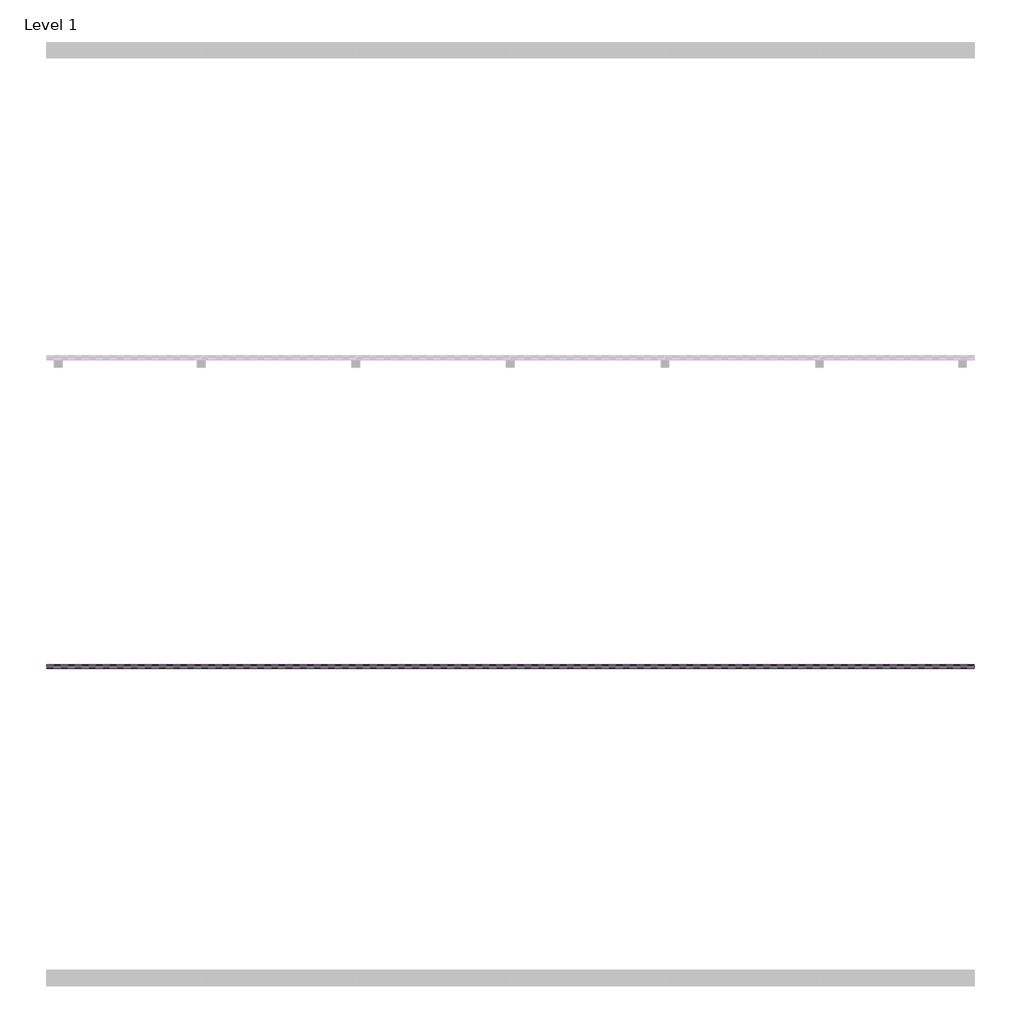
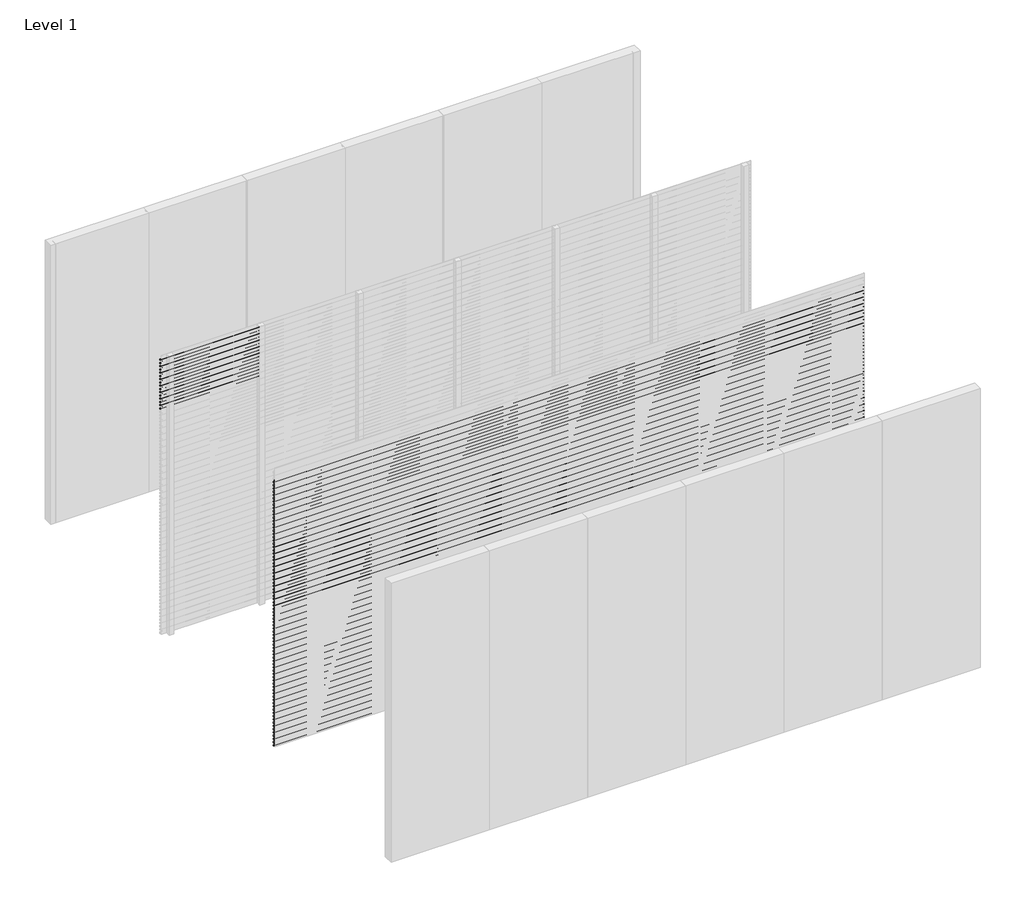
# One storey, part 8 of 25: 98 proxies.
"""IFC4 building model written with IfcOpenShell, lengths in millimetres."""

from ifc_helpers import new_model, si_unit, frame, origin, place, context, project, spatial, polyline, outline, extrude, element, save

model = new_model("IFC4")

# Units and contexts
model_context = context("Model", 3, world=origin())
ifc_project = project(units=[si_unit("LENGTHUNIT", "METRE", prefix="MILLI")], contexts=[model_context])

# Site, building, storey
site = spatial("IfcSite", under=ifc_project)
building = spatial("IfcBuilding", under=site)
storey = spatial("IfcBuildingStorey", under=building, Name="Level 1", Elevation=0.0)

# Proxies
placement = place(None, origin())
element("IfcBuildingElementProxy", 1, Name="Wall Sweeps", at=placement, inside=storey, context=model_context, shape_type="SweptSolid", body=[
    extrude(outline(polyline([(-11995.0, 2975.0), (-11995.0, 2963.942893), (-11976.0, 2948.0), (-11976.0, 2935.0), (-11997.0, 2952.6210923), (-11997.0, 2975.0), (-11995.0, 2975.0)])), frame((0.0, 0.0, 0.0), z_axis=(1.0, 0.0, 0.0), x_axis=(0.0, 1.0, 0.0)), (0.0, 0.0, 1.0), 1000.0),
])
element("IfcBuildingElementProxy", 2, Name="Wall Sweeps", at=placement, inside=storey, context=model_context, shape_type="SweptSolid", body=[
    extrude(outline(polyline([(-11995.0, 2940.0), (-11995.0, 2928.942893), (-11976.0, 2913.0), (-11976.0, 2900.0), (-11997.0, 2917.6210923), (-11997.0, 2940.0), (-11995.0, 2940.0)])), frame((0.0, 0.0, 0.0), z_axis=(1.0, 0.0, 0.0), x_axis=(0.0, 1.0, 0.0)), (0.0, 0.0, 1.0), 1000.0),
])
element("IfcBuildingElementProxy", 3, Name="Wall Sweeps", at=placement, inside=storey, context=model_context, shape_type="SweptSolid", body=[
    extrude(outline(polyline([(-11995.0, 2905.0), (-11995.0, 2893.942893), (-11976.0, 2878.0), (-11976.0, 2865.0), (-11997.0, 2882.6210923), (-11997.0, 2905.0), (-11995.0, 2905.0)])), frame((0.0, 0.0, 0.0), z_axis=(1.0, 0.0, 0.0), x_axis=(0.0, 1.0, 0.0)), (0.0, 0.0, 1.0), 1000.0),
])
element("IfcBuildingElementProxy", 4, Name="Wall Sweeps", at=placement, inside=storey, context=model_context, shape_type="SweptSolid", body=[
    extrude(outline(polyline([(-11995.0, 2870.0), (-11995.0, 2858.942893), (-11976.0, 2843.0), (-11976.0, 2830.0), (-11997.0, 2847.6210923), (-11997.0, 2870.0), (-11995.0, 2870.0)])), frame((0.0, 0.0, 0.0), z_axis=(1.0, 0.0, 0.0), x_axis=(0.0, 1.0, 0.0)), (0.0, 0.0, 1.0), 1000.0),
])
element("IfcBuildingElementProxy", 5, Name="Wall Sweeps", at=placement, inside=storey, context=model_context, shape_type="SweptSolid", body=[
    extrude(outline(polyline([(-11995.0, 2835.0), (-11995.0, 2823.942893), (-11976.0, 2808.0), (-11976.0, 2795.0), (-11997.0, 2812.6210923), (-11997.0, 2835.0), (-11995.0, 2835.0)])), frame((0.0, 0.0, 0.0), z_axis=(1.0, 0.0, 0.0), x_axis=(0.0, 1.0, 0.0)), (0.0, 0.0, 1.0), 1000.0),
])
element("IfcBuildingElementProxy", 6, Name="Wall Sweeps", at=placement, inside=storey, context=model_context, shape_type="SweptSolid", body=[
    extrude(outline(polyline([(-11995.0, 2800.0), (-11995.0, 2788.942893), (-11976.0, 2773.0), (-11976.0, 2760.0), (-11997.0, 2777.6210923), (-11997.0, 2800.0), (-11995.0, 2800.0)])), frame((0.0, 0.0, 0.0), z_axis=(1.0, 0.0, 0.0), x_axis=(0.0, 1.0, 0.0)), (0.0, 0.0, 1.0), 1000.0),
])
element("IfcBuildingElementProxy", 7, Name="Wall Sweeps", at=placement, inside=storey, context=model_context, shape_type="SweptSolid", body=[
    extrude(outline(polyline([(-11995.0, 2765.0), (-11995.0, 2753.942893), (-11976.0, 2738.0), (-11976.0, 2725.0), (-11997.0, 2742.6210923), (-11997.0, 2765.0), (-11995.0, 2765.0)])), frame((0.0, 0.0, 0.0), z_axis=(1.0, 0.0, 0.0), x_axis=(0.0, 1.0, 0.0)), (0.0, 0.0, 1.0), 1000.0),
])
element("IfcBuildingElementProxy", 8, Name="Wall Sweeps", at=placement, inside=storey, context=model_context, shape_type="SweptSolid", body=[
    extrude(outline(polyline([(-11995.0, 2730.0), (-11995.0, 2718.942893), (-11976.0, 2703.0), (-11976.0, 2690.0), (-11997.0, 2707.6210923), (-11997.0, 2730.0), (-11995.0, 2730.0)])), frame((0.0, 0.0, 0.0), z_axis=(1.0, 0.0, 0.0), x_axis=(0.0, 1.0, 0.0)), (0.0, 0.0, 1.0), 1000.0),
])
element("IfcBuildingElementProxy", 9, Name="Wall Sweeps", at=placement, inside=storey, context=model_context, shape_type="SweptSolid", body=[
    extrude(outline(polyline([(-11995.0, 2695.0), (-11995.0, 2683.942893), (-11976.0, 2668.0), (-11976.0, 2655.0), (-11997.0, 2672.6210923), (-11997.0, 2695.0), (-11995.0, 2695.0)])), frame((0.0, 0.0, 0.0), z_axis=(1.0, 0.0, 0.0), x_axis=(0.0, 1.0, 0.0)), (0.0, 0.0, 1.0), 1000.0),
])
element("IfcBuildingElementProxy", 10, Name="Wall Sweeps", at=placement, inside=storey, context=model_context, shape_type="SweptSolid", body=[
    extrude(outline(polyline([(-11995.0, 2660.0), (-11995.0, 2648.942893), (-11976.0, 2633.0), (-11976.0, 2620.0), (-11997.0, 2637.6210923), (-11997.0, 2660.0), (-11995.0, 2660.0)])), frame((0.0, 0.0, 0.0), z_axis=(1.0, 0.0, 0.0), x_axis=(0.0, 1.0, 0.0)), (0.0, 0.0, 1.0), 1000.0),
])
element("IfcBuildingElementProxy", 11, Name="Wall Sweeps", at=placement, inside=storey, context=model_context, shape_type="SweptSolid", body=[
    extrude(outline(polyline([(-11995.0, 2625.0), (-11995.0, 2613.942893), (-11976.0, 2598.0), (-11976.0, 2585.0), (-11997.0, 2602.6210923), (-11997.0, 2625.0), (-11995.0, 2625.0)])), frame((0.0, 0.0, 0.0), z_axis=(1.0, 0.0, 0.0), x_axis=(0.0, 1.0, 0.0)), (0.0, 0.0, 1.0), 1000.0),
])
element("IfcBuildingElementProxy", 12, Name="Wall Sweeps", at=placement, inside=storey, context=model_context, shape_type="SweptSolid", body=[
    extrude(outline(polyline([(-11995.0, 2590.0), (-11995.0, 2578.942893), (-11976.0, 2563.0), (-11976.0, 2550.0), (-11997.0, 2567.6210923), (-11997.0, 2590.0), (-11995.0, 2590.0)])), frame((0.0, 0.0, 0.0), z_axis=(1.0, 0.0, 0.0), x_axis=(0.0, 1.0, 0.0)), (0.0, 0.0, 1.0), 1000.0),
])
element("IfcBuildingElementProxy", 13, Name="Wall Sweeps", at=placement, inside=storey, context=model_context, shape_type="SweptSolid", body=[
    extrude(outline(polyline([(-11995.0, 2555.0), (-11995.0, 2543.942893), (-11976.0, 2528.0), (-11976.0, 2515.0), (-11997.0, 2532.6210923), (-11997.0, 2555.0), (-11995.0, 2555.0)])), frame((0.0, 0.0, 0.0), z_axis=(1.0, 0.0, 0.0), x_axis=(0.0, 1.0, 0.0)), (0.0, 0.0, 1.0), 1000.0),
])
element("IfcBuildingElementProxy", 14, Name="Wall Sweeps", at=placement, inside=storey, context=model_context, shape_type="SweptSolid", body=[
    extrude(outline(polyline([(-11995.0, 2520.0), (-11995.0, 2508.942893), (-11976.0, 2493.0), (-11976.0, 2480.0), (-11997.0, 2497.6210923), (-11997.0, 2520.0), (-11995.0, 2520.0)])), frame((0.0, 0.0, 0.0), z_axis=(1.0, 0.0, 0.0), x_axis=(0.0, 1.0, 0.0)), (0.0, 0.0, 1.0), 1000.0),
])
element("IfcBuildingElementProxy", 15, Name="Wall Sweeps", at=placement, inside=storey, context=model_context, shape_type="SweptSolid", body=[
    extrude(outline(polyline([(-11995.0, 2485.0), (-11995.0, 2473.942893), (-11976.0, 2458.0), (-11976.0, 2445.0), (-11997.0, 2462.6210923), (-11997.0, 2485.0), (-11995.0, 2485.0)])), frame((0.0, 0.0, 0.0), z_axis=(1.0, 0.0, 0.0), x_axis=(0.0, 1.0, 0.0)), (0.0, 0.0, 1.0), 1000.0),
])
element("IfcBuildingElementProxy", 16, Name="Wall Sweeps", at=placement, inside=storey, context=model_context, shape_type="SweptSolid", body=[
    extrude(outline(polyline([(-11995.0, 2450.0), (-11995.0, 2438.942893), (-11976.0, 2423.0), (-11976.0, 2410.0), (-11997.0, 2427.6210923), (-11997.0, 2450.0), (-11995.0, 2450.0)])), frame((0.0, 0.0, 0.0), z_axis=(1.0, 0.0, 0.0), x_axis=(0.0, 1.0, 0.0)), (0.0, 0.0, 1.0), 1000.0),
])
element("IfcBuildingElementProxy", 17, Name="Wall Sweeps", at=placement, inside=storey, context=model_context, shape_type="SweptSolid", body=[
    extrude(outline(polyline([(-13995.0, 2870.0), (-13995.0, 2858.942893), (-13976.0, 2843.0), (-13976.0, 2830.0), (-13997.0, 2847.6210923), (-13997.0, 2870.0), (-13995.0, 2870.0)])), frame((0.0, 0.0, 0.0), z_axis=(1.0, 0.0, 0.0), x_axis=(0.0, 1.0, 0.0)), (0.0, 0.0, 1.0), 6000.0),
])
element("IfcBuildingElementProxy", 18, Name="Wall Sweeps", at=placement, inside=storey, context=model_context, shape_type="SweptSolid", body=[
    extrude(outline(polyline([(-13995.0, 2835.0), (-13995.0, 2823.942893), (-13976.0, 2808.0), (-13976.0, 2795.0), (-13997.0, 2812.6210923), (-13997.0, 2835.0), (-13995.0, 2835.0)])), frame((0.0, 0.0, 0.0), z_axis=(1.0, 0.0, 0.0), x_axis=(0.0, 1.0, 0.0)), (0.0, 0.0, 1.0), 6000.0),
])
element("IfcBuildingElementProxy", 19, Name="Wall Sweeps", at=placement, inside=storey, context=model_context, shape_type="SweptSolid", body=[
    extrude(outline(polyline([(-13995.0, 2800.0), (-13995.0, 2788.942893), (-13976.0, 2773.0), (-13976.0, 2760.0), (-13997.0, 2777.6210923), (-13997.0, 2800.0), (-13995.0, 2800.0)])), frame((0.0, 0.0, 0.0), z_axis=(1.0, 0.0, 0.0), x_axis=(0.0, 1.0, 0.0)), (0.0, 0.0, 1.0), 6000.0),
])
element("IfcBuildingElementProxy", 20, Name="Wall Sweeps", at=placement, inside=storey, context=model_context, shape_type="SweptSolid", body=[
    extrude(outline(polyline([(-13995.0, 2765.0), (-13995.0, 2753.942893), (-13976.0, 2738.0), (-13976.0, 2725.0), (-13997.0, 2742.6210923), (-13997.0, 2765.0), (-13995.0, 2765.0)])), frame((0.0, 0.0, 0.0), z_axis=(1.0, 0.0, 0.0), x_axis=(0.0, 1.0, 0.0)), (0.0, 0.0, 1.0), 6000.0),
])
element("IfcBuildingElementProxy", 21, Name="Wall Sweeps", at=placement, inside=storey, context=model_context, shape_type="SweptSolid", body=[
    extrude(outline(polyline([(-13995.0, 2730.0), (-13995.0, 2718.942893), (-13976.0, 2703.0), (-13976.0, 2690.0), (-13997.0, 2707.6210923), (-13997.0, 2730.0), (-13995.0, 2730.0)])), frame((0.0, 0.0, 0.0), z_axis=(1.0, 0.0, 0.0), x_axis=(0.0, 1.0, 0.0)), (0.0, 0.0, 1.0), 6000.0),
])
element("IfcBuildingElementProxy", 22, Name="Wall Sweeps", at=placement, inside=storey, context=model_context, shape_type="SweptSolid", body=[
    extrude(outline(polyline([(-13995.0, 2695.0), (-13995.0, 2683.942893), (-13976.0, 2668.0), (-13976.0, 2655.0), (-13997.0, 2672.6210923), (-13997.0, 2695.0), (-13995.0, 2695.0)])), frame((0.0, 0.0, 0.0), z_axis=(1.0, 0.0, 0.0), x_axis=(0.0, 1.0, 0.0)), (0.0, 0.0, 1.0), 6000.0),
])
element("IfcBuildingElementProxy", 23, Name="Wall Sweeps", at=placement, inside=storey, context=model_context, shape_type="SweptSolid", body=[
    extrude(outline(polyline([(-13995.0, 2660.0), (-13995.0, 2648.942893), (-13976.0, 2633.0), (-13976.0, 2620.0), (-13997.0, 2637.6210923), (-13997.0, 2660.0), (-13995.0, 2660.0)])), frame((0.0, 0.0, 0.0), z_axis=(1.0, 0.0, 0.0), x_axis=(0.0, 1.0, 0.0)), (0.0, 0.0, 1.0), 6000.0),
])
element("IfcBuildingElementProxy", 24, Name="Wall Sweeps", at=placement, inside=storey, context=model_context, shape_type="SweptSolid", body=[
    extrude(outline(polyline([(-13995.0, 2625.0), (-13995.0, 2613.942893), (-13976.0, 2598.0), (-13976.0, 2585.0), (-13997.0, 2602.6210923), (-13997.0, 2625.0), (-13995.0, 2625.0)])), frame((0.0, 0.0, 0.0), z_axis=(1.0, 0.0, 0.0), x_axis=(0.0, 1.0, 0.0)), (0.0, 0.0, 1.0), 6000.0),
])
element("IfcBuildingElementProxy", 25, Name="Wall Sweeps", at=placement, inside=storey, context=model_context, shape_type="SweptSolid", body=[
    extrude(outline(polyline([(-13995.0, 2590.0), (-13995.0, 2578.942893), (-13976.0, 2563.0), (-13976.0, 2550.0), (-13997.0, 2567.6210923), (-13997.0, 2590.0), (-13995.0, 2590.0)])), frame((0.0, 0.0, 0.0), z_axis=(1.0, 0.0, 0.0), x_axis=(0.0, 1.0, 0.0)), (0.0, 0.0, 1.0), 6000.0),
])
element("IfcBuildingElementProxy", 26, Name="Wall Sweeps", at=placement, inside=storey, context=model_context, shape_type="SweptSolid", body=[
    extrude(outline(polyline([(-13995.0, 2555.0), (-13995.0, 2543.942893), (-13976.0, 2528.0), (-13976.0, 2515.0), (-13997.0, 2532.6210923), (-13997.0, 2555.0), (-13995.0, 2555.0)])), frame((0.0, 0.0, 0.0), z_axis=(1.0, 0.0, 0.0), x_axis=(0.0, 1.0, 0.0)), (0.0, 0.0, 1.0), 6000.0),
])
element("IfcBuildingElementProxy", 27, Name="Wall Sweeps", at=placement, inside=storey, context=model_context, shape_type="SweptSolid", body=[
    extrude(outline(polyline([(-13995.0, 2520.0), (-13995.0, 2508.942893), (-13976.0, 2493.0), (-13976.0, 2480.0), (-13997.0, 2497.6210923), (-13997.0, 2520.0), (-13995.0, 2520.0)])), frame((0.0, 0.0, 0.0), z_axis=(1.0, 0.0, 0.0), x_axis=(0.0, 1.0, 0.0)), (0.0, 0.0, 1.0), 6000.0),
])
element("IfcBuildingElementProxy", 28, Name="Wall Sweeps", at=placement, inside=storey, context=model_context, shape_type="SweptSolid", body=[
    extrude(outline(polyline([(-13995.0, 2485.0), (-13995.0, 2473.942893), (-13976.0, 2458.0), (-13976.0, 2445.0), (-13997.0, 2462.6210923), (-13997.0, 2485.0), (-13995.0, 2485.0)])), frame((0.0, 0.0, 0.0), z_axis=(1.0, 0.0, 0.0), x_axis=(0.0, 1.0, 0.0)), (0.0, 0.0, 1.0), 6000.0),
])
element("IfcBuildingElementProxy", 29, Name="Wall Sweeps", at=placement, inside=storey, context=model_context, shape_type="SweptSolid", body=[
    extrude(outline(polyline([(-13995.0, 2450.0), (-13995.0, 2438.942893), (-13976.0, 2423.0), (-13976.0, 2410.0), (-13997.0, 2427.6210923), (-13997.0, 2450.0), (-13995.0, 2450.0)])), frame((0.0, 0.0, 0.0), z_axis=(1.0, 0.0, 0.0), x_axis=(0.0, 1.0, 0.0)), (0.0, 0.0, 1.0), 6000.0),
])
element("IfcBuildingElementProxy", 30, Name="Wall Sweeps", at=placement, inside=storey, context=model_context, shape_type="SweptSolid", body=[
    extrude(outline(polyline([(-13995.0, 2415.0), (-13995.0, 2403.942893), (-13976.0, 2388.0), (-13976.0, 2375.0), (-13997.0, 2392.6210923), (-13997.0, 2415.0), (-13995.0, 2415.0)])), frame((0.0, 0.0, 0.0), z_axis=(1.0, 0.0, 0.0), x_axis=(0.0, 1.0, 0.0)), (0.0, 0.0, 1.0), 6000.0),
])
element("IfcBuildingElementProxy", 31, Name="Wall Sweeps", at=placement, inside=storey, context=model_context, shape_type="SweptSolid", body=[
    extrude(outline(polyline([(-13995.0, 2380.0), (-13995.0, 2368.942893), (-13976.0, 2353.0), (-13976.0, 2340.0), (-13997.0, 2357.6210923), (-13997.0, 2380.0), (-13995.0, 2380.0)])), frame((0.0, 0.0, 0.0), z_axis=(1.0, 0.0, 0.0), x_axis=(0.0, 1.0, 0.0)), (0.0, 0.0, 1.0), 6000.0),
])
element("IfcBuildingElementProxy", 32, Name="Wall Sweeps", at=placement, inside=storey, context=model_context, shape_type="SweptSolid", body=[
    extrude(outline(polyline([(-13995.0, 2345.0), (-13995.0, 2333.942893), (-13976.0, 2318.0), (-13976.0, 2305.0), (-13997.0, 2322.6210923), (-13997.0, 2345.0), (-13995.0, 2345.0)])), frame((0.0, 0.0, 0.0), z_axis=(1.0, 0.0, 0.0), x_axis=(0.0, 1.0, 0.0)), (0.0, 0.0, 1.0), 6000.0),
])
element("IfcBuildingElementProxy", 33, Name="Wall Sweeps", at=placement, inside=storey, context=model_context, shape_type="SweptSolid", body=[
    extrude(outline(polyline([(-13995.0, 2310.0), (-13995.0, 2298.942893), (-13976.0, 2283.0), (-13976.0, 2270.0), (-13997.0, 2287.6210923), (-13997.0, 2310.0), (-13995.0, 2310.0)])), frame((0.0, 0.0, 0.0), z_axis=(1.0, 0.0, 0.0), x_axis=(0.0, 1.0, 0.0)), (0.0, 0.0, 1.0), 6000.0),
])
element("IfcBuildingElementProxy", 34, Name="Wall Sweeps", at=placement, inside=storey, context=model_context, shape_type="SweptSolid", body=[
    extrude(outline(polyline([(-13995.0, 2275.0), (-13995.0, 2263.942893), (-13976.0, 2248.0), (-13976.0, 2235.0), (-13997.0, 2252.6210923), (-13997.0, 2275.0), (-13995.0, 2275.0)])), frame((0.0, 0.0, 0.0), z_axis=(1.0, 0.0, 0.0), x_axis=(0.0, 1.0, 0.0)), (0.0, 0.0, 1.0), 6000.0),
])
element("IfcBuildingElementProxy", 35, Name="Wall Sweeps", at=placement, inside=storey, context=model_context, shape_type="SweptSolid", body=[
    extrude(outline(polyline([(-13995.0, 2240.0), (-13995.0, 2228.942893), (-13976.0, 2213.0), (-13976.0, 2200.0), (-13997.0, 2217.6210923), (-13997.0, 2240.0), (-13995.0, 2240.0)])), frame((0.0, 0.0, 0.0), z_axis=(1.0, 0.0, 0.0), x_axis=(0.0, 1.0, 0.0)), (0.0, 0.0, 1.0), 6000.0),
])
element("IfcBuildingElementProxy", 36, Name="Wall Sweeps", at=placement, inside=storey, context=model_context, shape_type="SweptSolid", body=[
    extrude(outline(polyline([(-13995.0, 2205.0), (-13995.0, 2193.942893), (-13976.0, 2178.0), (-13976.0, 2165.0), (-13997.0, 2182.6210923), (-13997.0, 2205.0), (-13995.0, 2205.0)])), frame((0.0, 0.0, 0.0), z_axis=(1.0, 0.0, 0.0), x_axis=(0.0, 1.0, 0.0)), (0.0, 0.0, 1.0), 6000.0),
])
element("IfcBuildingElementProxy", 37, Name="Wall Sweeps", at=placement, inside=storey, context=model_context, shape_type="SweptSolid", body=[
    extrude(outline(polyline([(-13995.0, 2170.0), (-13995.0, 2158.942893), (-13976.0, 2143.0), (-13976.0, 2130.0), (-13997.0, 2147.6210923), (-13997.0, 2170.0), (-13995.0, 2170.0)])), frame((0.0, 0.0, 0.0), z_axis=(1.0, 0.0, 0.0), x_axis=(0.0, 1.0, 0.0)), (0.0, 0.0, 1.0), 6000.0),
])
element("IfcBuildingElementProxy", 38, Name="Wall Sweeps", at=placement, inside=storey, context=model_context, shape_type="SweptSolid", body=[
    extrude(outline(polyline([(-13995.0, 2135.0), (-13995.0, 2123.942893), (-13976.0, 2108.0), (-13976.0, 2095.0), (-13997.0, 2112.6210923), (-13997.0, 2135.0), (-13995.0, 2135.0)])), frame((0.0, 0.0, 0.0), z_axis=(1.0, 0.0, 0.0), x_axis=(0.0, 1.0, 0.0)), (0.0, 0.0, 1.0), 6000.0),
])
element("IfcBuildingElementProxy", 39, Name="Wall Sweeps", at=placement, inside=storey, context=model_context, shape_type="SweptSolid", body=[
    extrude(outline(polyline([(-13995.0, 2100.0), (-13995.0, 2088.942893), (-13976.0, 2073.0), (-13976.0, 2060.0), (-13997.0, 2077.6210923), (-13997.0, 2100.0), (-13995.0, 2100.0)])), frame((0.0, 0.0, 0.0), z_axis=(1.0, 0.0, 0.0), x_axis=(0.0, 1.0, 0.0)), (0.0, 0.0, 1.0), 6000.0),
])
element("IfcBuildingElementProxy", 40, Name="Wall Sweeps", at=placement, inside=storey, context=model_context, shape_type="SweptSolid", body=[
    extrude(outline(polyline([(-13995.0, 2065.0), (-13995.0, 2053.942893), (-13976.0, 2038.0), (-13976.0, 2025.0), (-13997.0, 2042.6210923), (-13997.0, 2065.0), (-13995.0, 2065.0)])), frame((0.0, 0.0, 0.0), z_axis=(1.0, 0.0, 0.0), x_axis=(0.0, 1.0, 0.0)), (0.0, 0.0, 1.0), 6000.0),
])
element("IfcBuildingElementProxy", 41, Name="Wall Sweeps", at=placement, inside=storey, context=model_context, shape_type="SweptSolid", body=[
    extrude(outline(polyline([(-13995.0, 2030.0), (-13995.0, 2018.942893), (-13976.0, 2003.0), (-13976.0, 1990.0), (-13997.0, 2007.6210923), (-13997.0, 2030.0), (-13995.0, 2030.0)])), frame((0.0, 0.0, 0.0), z_axis=(1.0, 0.0, 0.0), x_axis=(0.0, 1.0, 0.0)), (0.0, 0.0, 1.0), 6000.0),
])
element("IfcBuildingElementProxy", 42, Name="Wall Sweeps", at=placement, inside=storey, context=model_context, shape_type="SweptSolid", body=[
    extrude(outline(polyline([(-13995.0, 1995.0), (-13995.0, 1983.942893), (-13976.0, 1968.0), (-13976.0, 1955.0), (-13997.0, 1972.6210923), (-13997.0, 1995.0), (-13995.0, 1995.0)])), frame((0.0, 0.0, 0.0), z_axis=(1.0, 0.0, 0.0), x_axis=(0.0, 1.0, 0.0)), (0.0, 0.0, 1.0), 6000.0),
])
element("IfcBuildingElementProxy", 43, Name="Wall Sweeps", at=placement, inside=storey, context=model_context, shape_type="SweptSolid", body=[
    extrude(outline(polyline([(-13995.0, 1960.0), (-13995.0, 1948.942893), (-13976.0, 1933.0), (-13976.0, 1920.0), (-13997.0, 1937.6210923), (-13997.0, 1960.0), (-13995.0, 1960.0)])), frame((0.0, 0.0, 0.0), z_axis=(1.0, 0.0, 0.0), x_axis=(0.0, 1.0, 0.0)), (0.0, 0.0, 1.0), 6000.0),
])
element("IfcBuildingElementProxy", 44, Name="Wall Sweeps", at=placement, inside=storey, context=model_context, shape_type="SweptSolid", body=[
    extrude(outline(polyline([(-13995.0, 1925.0), (-13995.0, 1913.942893), (-13976.0, 1898.0), (-13976.0, 1885.0), (-13997.0, 1902.6210923), (-13997.0, 1925.0), (-13995.0, 1925.0)])), frame((0.0, 0.0, 0.0), z_axis=(1.0, 0.0, 0.0), x_axis=(0.0, 1.0, 0.0)), (0.0, 0.0, 1.0), 6000.0),
])
element("IfcBuildingElementProxy", 45, Name="Wall Sweeps", at=placement, inside=storey, context=model_context, shape_type="SweptSolid", body=[
    extrude(outline(polyline([(-13995.0, 1890.0), (-13995.0, 1878.942893), (-13976.0, 1863.0), (-13976.0, 1850.0), (-13997.0, 1867.6210923), (-13997.0, 1890.0), (-13995.0, 1890.0)])), frame((0.0, 0.0, 0.0), z_axis=(1.0, 0.0, 0.0), x_axis=(0.0, 1.0, 0.0)), (0.0, 0.0, 1.0), 6000.0),
])
element("IfcBuildingElementProxy", 46, Name="Wall Sweeps", at=placement, inside=storey, context=model_context, shape_type="SweptSolid", body=[
    extrude(outline(polyline([(-13995.0, 1855.0), (-13995.0, 1843.942893), (-13976.0, 1828.0), (-13976.0, 1815.0), (-13997.0, 1832.6210923), (-13997.0, 1855.0), (-13995.0, 1855.0)])), frame((0.0, 0.0, 0.0), z_axis=(1.0, 0.0, 0.0), x_axis=(0.0, 1.0, 0.0)), (0.0, 0.0, 1.0), 6000.0),
])
element("IfcBuildingElementProxy", 47, Name="Wall Sweeps", at=placement, inside=storey, context=model_context, shape_type="SweptSolid", body=[
    extrude(outline(polyline([(-13995.0, 1820.0), (-13995.0, 1808.942893), (-13976.0, 1793.0), (-13976.0, 1780.0), (-13997.0, 1797.6210923), (-13997.0, 1820.0), (-13995.0, 1820.0)])), frame((0.0, 0.0, 0.0), z_axis=(1.0, 0.0, 0.0), x_axis=(0.0, 1.0, 0.0)), (0.0, 0.0, 1.0), 6000.0),
])
element("IfcBuildingElementProxy", 48, Name="Wall Sweeps", at=placement, inside=storey, context=model_context, shape_type="SweptSolid", body=[
    extrude(outline(polyline([(-13995.0, 1785.0), (-13995.0, 1773.942893), (-13976.0, 1758.0), (-13976.0, 1745.0), (-13997.0, 1762.6210923), (-13997.0, 1785.0), (-13995.0, 1785.0)])), frame((0.0, 0.0, 0.0), z_axis=(1.0, 0.0, 0.0), x_axis=(0.0, 1.0, 0.0)), (0.0, 0.0, 1.0), 6000.0),
])
element("IfcBuildingElementProxy", 49, Name="Wall Sweeps", at=placement, inside=storey, context=model_context, shape_type="SweptSolid", body=[
    extrude(outline(polyline([(-13995.0, 1750.0), (-13995.0, 1738.942893), (-13976.0, 1723.0), (-13976.0, 1710.0), (-13997.0, 1727.6210923), (-13997.0, 1750.0), (-13995.0, 1750.0)])), frame((0.0, 0.0, 0.0), z_axis=(1.0, 0.0, 0.0), x_axis=(0.0, 1.0, 0.0)), (0.0, 0.0, 1.0), 6000.0),
])
element("IfcBuildingElementProxy", 50, Name="Wall Sweeps", at=placement, inside=storey, context=model_context, shape_type="SweptSolid", body=[
    extrude(outline(polyline([(-13995.0, 1715.0), (-13995.0, 1703.942893), (-13976.0, 1688.0), (-13976.0, 1675.0), (-13997.0, 1692.6210923), (-13997.0, 1715.0), (-13995.0, 1715.0)])), frame((0.0, 0.0, 0.0), z_axis=(1.0, 0.0, 0.0), x_axis=(0.0, 1.0, 0.0)), (0.0, 0.0, 1.0), 6000.0),
])
element("IfcBuildingElementProxy", 51, Name="Wall Sweeps", at=placement, inside=storey, context=model_context, shape_type="SweptSolid", body=[
    extrude(outline(polyline([(-13995.0, 1680.0), (-13995.0, 1668.942893), (-13976.0, 1653.0), (-13976.0, 1640.0), (-13997.0, 1657.6210923), (-13997.0, 1680.0), (-13995.0, 1680.0)])), frame((0.0, 0.0, 0.0), z_axis=(1.0, 0.0, 0.0), x_axis=(0.0, 1.0, 0.0)), (0.0, 0.0, 1.0), 6000.0),
])
element("IfcBuildingElementProxy", 52, Name="Wall Sweeps", at=placement, inside=storey, context=model_context, shape_type="SweptSolid", body=[
    extrude(outline(polyline([(-13995.0, 1645.0), (-13995.0, 1633.942893), (-13976.0, 1618.0), (-13976.0, 1605.0), (-13997.0, 1622.6210923), (-13997.0, 1645.0), (-13995.0, 1645.0)])), frame((0.0, 0.0, 0.0), z_axis=(1.0, 0.0, 0.0), x_axis=(0.0, 1.0, 0.0)), (0.0, 0.0, 1.0), 6000.0),
])
element("IfcBuildingElementProxy", 53, Name="Wall Sweeps", at=placement, inside=storey, context=model_context, shape_type="SweptSolid", body=[
    extrude(outline(polyline([(-13995.0, 1610.0), (-13995.0, 1598.942893), (-13976.0, 1583.0), (-13976.0, 1570.0), (-13997.0, 1587.6210923), (-13997.0, 1610.0), (-13995.0, 1610.0)])), frame((0.0, 0.0, 0.0), z_axis=(1.0, 0.0, 0.0), x_axis=(0.0, 1.0, 0.0)), (0.0, 0.0, 1.0), 6000.0),
])
element("IfcBuildingElementProxy", 54, Name="Wall Sweeps", at=placement, inside=storey, context=model_context, shape_type="SweptSolid", body=[
    extrude(outline(polyline([(-13995.0, 1575.0), (-13995.0, 1563.942893), (-13976.0, 1548.0), (-13976.0, 1535.0), (-13997.0, 1552.6210923), (-13997.0, 1575.0), (-13995.0, 1575.0)])), frame((0.0, 0.0, 0.0), z_axis=(1.0, 0.0, 0.0), x_axis=(0.0, 1.0, 0.0)), (0.0, 0.0, 1.0), 6000.0),
])
element("IfcBuildingElementProxy", 55, Name="Wall Sweeps", at=placement, inside=storey, context=model_context, shape_type="SweptSolid", body=[
    extrude(outline(polyline([(-13995.0, 1540.0), (-13995.0, 1528.942893), (-13976.0, 1513.0), (-13976.0, 1500.0), (-13997.0, 1517.6210923), (-13997.0, 1540.0), (-13995.0, 1540.0)])), frame((0.0, 0.0, 0.0), z_axis=(1.0, 0.0, 0.0), x_axis=(0.0, 1.0, 0.0)), (0.0, 0.0, 1.0), 6000.0),
])
element("IfcBuildingElementProxy", 56, Name="Wall Sweeps", at=placement, inside=storey, context=model_context, shape_type="SweptSolid", body=[
    extrude(outline(polyline([(-13995.0, 1505.0), (-13995.0, 1493.942893), (-13976.0, 1478.0), (-13976.0, 1465.0), (-13997.0, 1482.6210923), (-13997.0, 1505.0), (-13995.0, 1505.0)])), frame((0.0, 0.0, 0.0), z_axis=(1.0, 0.0, 0.0), x_axis=(0.0, 1.0, 0.0)), (0.0, 0.0, 1.0), 6000.0),
])
element("IfcBuildingElementProxy", 57, Name="Wall Sweeps", at=placement, inside=storey, context=model_context, shape_type="SweptSolid", body=[
    extrude(outline(polyline([(-13995.0, 1470.0), (-13995.0, 1458.942893), (-13976.0, 1443.0), (-13976.0, 1430.0), (-13997.0, 1447.6210923), (-13997.0, 1470.0), (-13995.0, 1470.0)])), frame((0.0, 0.0, 0.0), z_axis=(1.0, 0.0, 0.0), x_axis=(0.0, 1.0, 0.0)), (0.0, 0.0, 1.0), 6000.0),
])
element("IfcBuildingElementProxy", 58, Name="Wall Sweeps", at=placement, inside=storey, context=model_context, shape_type="SweptSolid", body=[
    extrude(outline(polyline([(-13995.0, 1435.0), (-13995.0, 1423.942893), (-13976.0, 1408.0), (-13976.0, 1395.0), (-13997.0, 1412.6210923), (-13997.0, 1435.0), (-13995.0, 1435.0)])), frame((0.0, 0.0, 0.0), z_axis=(1.0, 0.0, 0.0), x_axis=(0.0, 1.0, 0.0)), (0.0, 0.0, 1.0), 6000.0),
])
element("IfcBuildingElementProxy", 59, Name="Wall Sweeps", at=placement, inside=storey, context=model_context, shape_type="SweptSolid", body=[
    extrude(outline(polyline([(-13995.0, 1400.0), (-13995.0, 1388.942893), (-13976.0, 1373.0), (-13976.0, 1360.0), (-13997.0, 1377.6210923), (-13997.0, 1400.0), (-13995.0, 1400.0)])), frame((0.0, 0.0, 0.0), z_axis=(1.0, 0.0, 0.0), x_axis=(0.0, 1.0, 0.0)), (0.0, 0.0, 1.0), 6000.0),
])
element("IfcBuildingElementProxy", 60, Name="Wall Sweeps", at=placement, inside=storey, context=model_context, shape_type="SweptSolid", body=[
    extrude(outline(polyline([(-13995.0, 1365.0), (-13995.0, 1353.942893), (-13976.0, 1338.0), (-13976.0, 1325.0), (-13997.0, 1342.6210923), (-13997.0, 1365.0), (-13995.0, 1365.0)])), frame((0.0, 0.0, 0.0), z_axis=(1.0, 0.0, 0.0), x_axis=(0.0, 1.0, 0.0)), (0.0, 0.0, 1.0), 6000.0),
])
element("IfcBuildingElementProxy", 61, Name="Wall Sweeps", at=placement, inside=storey, context=model_context, shape_type="SweptSolid", body=[
    extrude(outline(polyline([(-13995.0, 1330.0), (-13995.0, 1318.942893), (-13976.0, 1303.0), (-13976.0, 1290.0), (-13997.0, 1307.6210923), (-13997.0, 1330.0), (-13995.0, 1330.0)])), frame((0.0, 0.0, 0.0), z_axis=(1.0, 0.0, 0.0), x_axis=(0.0, 1.0, 0.0)), (0.0, 0.0, 1.0), 6000.0),
])
element("IfcBuildingElementProxy", 62, Name="Wall Sweeps", at=placement, inside=storey, context=model_context, shape_type="SweptSolid", body=[
    extrude(outline(polyline([(-13995.0, 1295.0), (-13995.0, 1283.942893), (-13976.0, 1268.0), (-13976.0, 1255.0), (-13997.0, 1272.6210923), (-13997.0, 1295.0), (-13995.0, 1295.0)])), frame((0.0, 0.0, 0.0), z_axis=(1.0, 0.0, 0.0), x_axis=(0.0, 1.0, 0.0)), (0.0, 0.0, 1.0), 6000.0),
])
element("IfcBuildingElementProxy", 63, Name="Wall Sweeps", at=placement, inside=storey, context=model_context, shape_type="SweptSolid", body=[
    extrude(outline(polyline([(-13995.0, 1260.0), (-13995.0, 1248.942893), (-13976.0, 1233.0), (-13976.0, 1220.0), (-13997.0, 1237.6210923), (-13997.0, 1260.0), (-13995.0, 1260.0)])), frame((0.0, 0.0, 0.0), z_axis=(1.0, 0.0, 0.0), x_axis=(0.0, 1.0, 0.0)), (0.0, 0.0, 1.0), 6000.0),
])
element("IfcBuildingElementProxy", 64, Name="Wall Sweeps", at=placement, inside=storey, context=model_context, shape_type="SweptSolid", body=[
    extrude(outline(polyline([(-13995.0, 1225.0), (-13995.0, 1213.942893), (-13976.0, 1198.0), (-13976.0, 1185.0), (-13997.0, 1202.6210923), (-13997.0, 1225.0), (-13995.0, 1225.0)])), frame((0.0, 0.0, 0.0), z_axis=(1.0, 0.0, 0.0), x_axis=(0.0, 1.0, 0.0)), (0.0, 0.0, 1.0), 6000.0),
])
element("IfcBuildingElementProxy", 65, Name="Wall Sweeps", at=placement, inside=storey, context=model_context, shape_type="SweptSolid", body=[
    extrude(outline(polyline([(-13995.0, 1190.0), (-13995.0, 1178.942893), (-13976.0, 1163.0), (-13976.0, 1150.0), (-13997.0, 1167.6210923), (-13997.0, 1190.0), (-13995.0, 1190.0)])), frame((0.0, 0.0, 0.0), z_axis=(1.0, 0.0, 0.0), x_axis=(0.0, 1.0, 0.0)), (0.0, 0.0, 1.0), 6000.0),
])
element("IfcBuildingElementProxy", 66, Name="Wall Sweeps", at=placement, inside=storey, context=model_context, shape_type="SweptSolid", body=[
    extrude(outline(polyline([(-13995.0, 1155.0), (-13995.0, 1143.942893), (-13976.0, 1128.0), (-13976.0, 1115.0), (-13997.0, 1132.6210923), (-13997.0, 1155.0), (-13995.0, 1155.0)])), frame((0.0, 0.0, 0.0), z_axis=(1.0, 0.0, 0.0), x_axis=(0.0, 1.0, 0.0)), (0.0, 0.0, 1.0), 6000.0),
])
element("IfcBuildingElementProxy", 67, Name="Wall Sweeps", at=placement, inside=storey, context=model_context, shape_type="SweptSolid", body=[
    extrude(outline(polyline([(-13995.0, 1120.0), (-13995.0, 1108.942893), (-13976.0, 1093.0), (-13976.0, 1080.0), (-13997.0, 1097.6210923), (-13997.0, 1120.0), (-13995.0, 1120.0)])), frame((0.0, 0.0, 0.0), z_axis=(1.0, 0.0, 0.0), x_axis=(0.0, 1.0, 0.0)), (0.0, 0.0, 1.0), 6000.0),
])
element("IfcBuildingElementProxy", 68, Name="Wall Sweeps", at=placement, inside=storey, context=model_context, shape_type="SweptSolid", body=[
    extrude(outline(polyline([(-13995.0, 1085.0), (-13995.0, 1073.942893), (-13976.0, 1058.0), (-13976.0, 1045.0), (-13997.0, 1062.6210923), (-13997.0, 1085.0), (-13995.0, 1085.0)])), frame((0.0, 0.0, 0.0), z_axis=(1.0, 0.0, 0.0), x_axis=(0.0, 1.0, 0.0)), (0.0, 0.0, 1.0), 6000.0),
])
element("IfcBuildingElementProxy", 69, Name="Wall Sweeps", at=placement, inside=storey, context=model_context, shape_type="SweptSolid", body=[
    extrude(outline(polyline([(-13995.0, 1050.0), (-13995.0, 1038.942893), (-13976.0, 1023.0), (-13976.0, 1010.0), (-13997.0, 1027.6210923), (-13997.0, 1050.0), (-13995.0, 1050.0)])), frame((0.0, 0.0, 0.0), z_axis=(1.0, 0.0, 0.0), x_axis=(0.0, 1.0, 0.0)), (0.0, 0.0, 1.0), 6000.0),
])
element("IfcBuildingElementProxy", 70, Name="Wall Sweeps", at=placement, inside=storey, context=model_context, shape_type="SweptSolid", body=[
    extrude(outline(polyline([(-13995.0, 1015.0), (-13995.0, 1003.942893), (-13976.0, 988.0), (-13976.0, 975.0), (-13997.0, 992.6210923), (-13997.0, 1015.0), (-13995.0, 1015.0)])), frame((0.0, 0.0, 0.0), z_axis=(1.0, 0.0, 0.0), x_axis=(0.0, 1.0, 0.0)), (0.0, 0.0, 1.0), 6000.0),
])
element("IfcBuildingElementProxy", 71, Name="Wall Sweeps", at=placement, inside=storey, context=model_context, shape_type="SweptSolid", body=[
    extrude(outline(polyline([(-13995.0, 980.0), (-13995.0, 968.942893), (-13976.0, 953.0), (-13976.0, 940.0), (-13997.0, 957.6210923), (-13997.0, 980.0), (-13995.0, 980.0)])), frame((0.0, 0.0, 0.0), z_axis=(1.0, 0.0, 0.0), x_axis=(0.0, 1.0, 0.0)), (0.0, 0.0, 1.0), 6000.0),
])
element("IfcBuildingElementProxy", 72, Name="Wall Sweeps", at=placement, inside=storey, context=model_context, shape_type="SweptSolid", body=[
    extrude(outline(polyline([(-13995.0, 945.0), (-13995.0, 933.942893), (-13976.0, 918.0), (-13976.0, 905.0), (-13997.0, 922.6210923), (-13997.0, 945.0), (-13995.0, 945.0)])), frame((0.0, 0.0, 0.0), z_axis=(1.0, 0.0, 0.0), x_axis=(0.0, 1.0, 0.0)), (0.0, 0.0, 1.0), 6000.0),
])
element("IfcBuildingElementProxy", 73, Name="Wall Sweeps", at=placement, inside=storey, context=model_context, shape_type="SweptSolid", body=[
    extrude(outline(polyline([(-13995.0, 910.0), (-13995.0, 898.942893), (-13976.0, 883.0), (-13976.0, 870.0), (-13997.0, 887.6210923), (-13997.0, 910.0), (-13995.0, 910.0)])), frame((0.0, 0.0, 0.0), z_axis=(1.0, 0.0, 0.0), x_axis=(0.0, 1.0, 0.0)), (0.0, 0.0, 1.0), 6000.0),
])
element("IfcBuildingElementProxy", 74, Name="Wall Sweeps", at=placement, inside=storey, context=model_context, shape_type="SweptSolid", body=[
    extrude(outline(polyline([(-13995.0, 875.0), (-13995.0, 863.942893), (-13976.0, 848.0), (-13976.0, 835.0), (-13997.0, 852.6210923), (-13997.0, 875.0), (-13995.0, 875.0)])), frame((0.0, 0.0, 0.0), z_axis=(1.0, 0.0, 0.0), x_axis=(0.0, 1.0, 0.0)), (0.0, 0.0, 1.0), 6000.0),
])
element("IfcBuildingElementProxy", 75, Name="Wall Sweeps", at=placement, inside=storey, context=model_context, shape_type="SweptSolid", body=[
    extrude(outline(polyline([(-13995.0, 840.0), (-13995.0, 828.942893), (-13976.0, 813.0), (-13976.0, 800.0), (-13997.0, 817.6210923), (-13997.0, 840.0), (-13995.0, 840.0)])), frame((0.0, 0.0, 0.0), z_axis=(1.0, 0.0, 0.0), x_axis=(0.0, 1.0, 0.0)), (0.0, 0.0, 1.0), 6000.0),
])
element("IfcBuildingElementProxy", 76, Name="Wall Sweeps", at=placement, inside=storey, context=model_context, shape_type="SweptSolid", body=[
    extrude(outline(polyline([(-13995.0, 805.0), (-13995.0, 793.942893), (-13976.0, 778.0), (-13976.0, 765.0), (-13997.0, 782.6210923), (-13997.0, 805.0), (-13995.0, 805.0)])), frame((0.0, 0.0, 0.0), z_axis=(1.0, 0.0, 0.0), x_axis=(0.0, 1.0, 0.0)), (0.0, 0.0, 1.0), 6000.0),
])
element("IfcBuildingElementProxy", 77, Name="Wall Sweeps", at=placement, inside=storey, context=model_context, shape_type="SweptSolid", body=[
    extrude(outline(polyline([(-13995.0, 770.0), (-13995.0, 758.942893), (-13976.0, 743.0), (-13976.0, 730.0), (-13997.0, 747.6210923), (-13997.0, 770.0), (-13995.0, 770.0)])), frame((0.0, 0.0, 0.0), z_axis=(1.0, 0.0, 0.0), x_axis=(0.0, 1.0, 0.0)), (0.0, 0.0, 1.0), 6000.0),
])
element("IfcBuildingElementProxy", 78, Name="Wall Sweeps", at=placement, inside=storey, context=model_context, shape_type="SweptSolid", body=[
    extrude(outline(polyline([(-13995.0, 735.0), (-13995.0, 723.942893), (-13976.0, 708.0), (-13976.0, 695.0), (-13997.0, 712.6210923), (-13997.0, 735.0), (-13995.0, 735.0)])), frame((0.0, 0.0, 0.0), z_axis=(1.0, 0.0, 0.0), x_axis=(0.0, 1.0, 0.0)), (0.0, 0.0, 1.0), 6000.0),
])
element("IfcBuildingElementProxy", 79, Name="Wall Sweeps", at=placement, inside=storey, context=model_context, shape_type="SweptSolid", body=[
    extrude(outline(polyline([(-13995.0, 700.0), (-13995.0, 688.942893), (-13976.0, 673.0), (-13976.0, 660.0), (-13997.0, 677.6210923), (-13997.0, 700.0), (-13995.0, 700.0)])), frame((0.0, 0.0, 0.0), z_axis=(1.0, 0.0, 0.0), x_axis=(0.0, 1.0, 0.0)), (0.0, 0.0, 1.0), 6000.0),
])
element("IfcBuildingElementProxy", 80, Name="Wall Sweeps", at=placement, inside=storey, context=model_context, shape_type="SweptSolid", body=[
    extrude(outline(polyline([(-13995.0, 665.0), (-13995.0, 653.942893), (-13976.0, 638.0), (-13976.0, 625.0), (-13997.0, 642.6210923), (-13997.0, 665.0), (-13995.0, 665.0)])), frame((0.0, 0.0, 0.0), z_axis=(1.0, 0.0, 0.0), x_axis=(0.0, 1.0, 0.0)), (0.0, 0.0, 1.0), 6000.0),
])
element("IfcBuildingElementProxy", 81, Name="Wall Sweeps", at=placement, inside=storey, context=model_context, shape_type="SweptSolid", body=[
    extrude(outline(polyline([(-13995.0, 630.0), (-13995.0, 618.942893), (-13976.0, 603.0), (-13976.0, 590.0), (-13997.0, 607.6210923), (-13997.0, 630.0), (-13995.0, 630.0)])), frame((0.0, 0.0, 0.0), z_axis=(1.0, 0.0, 0.0), x_axis=(0.0, 1.0, 0.0)), (0.0, 0.0, 1.0), 6000.0),
])
element("IfcBuildingElementProxy", 82, Name="Wall Sweeps", at=placement, inside=storey, context=model_context, shape_type="SweptSolid", body=[
    extrude(outline(polyline([(-13995.0, 595.0), (-13995.0, 583.942893), (-13976.0, 568.0), (-13976.0, 555.0), (-13997.0, 572.6210923), (-13997.0, 595.0), (-13995.0, 595.0)])), frame((0.0, 0.0, 0.0), z_axis=(1.0, 0.0, 0.0), x_axis=(0.0, 1.0, 0.0)), (0.0, 0.0, 1.0), 6000.0),
])
element("IfcBuildingElementProxy", 83, Name="Wall Sweeps", at=placement, inside=storey, context=model_context, shape_type="SweptSolid", body=[
    extrude(outline(polyline([(-13995.0, 560.0), (-13995.0, 548.942893), (-13976.0, 533.0), (-13976.0, 520.0), (-13997.0, 537.6210923), (-13997.0, 560.0), (-13995.0, 560.0)])), frame((0.0, 0.0, 0.0), z_axis=(1.0, 0.0, 0.0), x_axis=(0.0, 1.0, 0.0)), (0.0, 0.0, 1.0), 6000.0),
])
element("IfcBuildingElementProxy", 84, Name="Wall Sweeps", at=placement, inside=storey, context=model_context, shape_type="SweptSolid", body=[
    extrude(outline(polyline([(-13995.0, 525.0), (-13995.0, 513.942893), (-13976.0, 498.0), (-13976.0, 485.0), (-13997.0, 502.6210923), (-13997.0, 525.0), (-13995.0, 525.0)])), frame((0.0, 0.0, 0.0), z_axis=(1.0, 0.0, 0.0), x_axis=(0.0, 1.0, 0.0)), (0.0, 0.0, 1.0), 6000.0),
])
element("IfcBuildingElementProxy", 85, Name="Wall Sweeps", at=placement, inside=storey, context=model_context, shape_type="SweptSolid", body=[
    extrude(outline(polyline([(-13995.0, 490.0), (-13995.0, 478.942893), (-13976.0, 463.0), (-13976.0, 450.0), (-13997.0, 467.6210923), (-13997.0, 490.0), (-13995.0, 490.0)])), frame((0.0, 0.0, 0.0), z_axis=(1.0, 0.0, 0.0), x_axis=(0.0, 1.0, 0.0)), (0.0, 0.0, 1.0), 6000.0),
])
element("IfcBuildingElementProxy", 86, Name="Wall Sweeps", at=placement, inside=storey, context=model_context, shape_type="SweptSolid", body=[
    extrude(outline(polyline([(-13995.0, 455.0), (-13995.0, 443.942893), (-13976.0, 428.0), (-13976.0, 415.0), (-13997.0, 432.6210923), (-13997.0, 455.0), (-13995.0, 455.0)])), frame((0.0, 0.0, 0.0), z_axis=(1.0, 0.0, 0.0), x_axis=(0.0, 1.0, 0.0)), (0.0, 0.0, 1.0), 6000.0),
])
element("IfcBuildingElementProxy", 87, Name="Wall Sweeps", at=placement, inside=storey, context=model_context, shape_type="SweptSolid", body=[
    extrude(outline(polyline([(-13995.0, 420.0), (-13995.0, 408.942893), (-13976.0, 393.0), (-13976.0, 380.0), (-13997.0, 397.6210923), (-13997.0, 420.0), (-13995.0, 420.0)])), frame((0.0, 0.0, 0.0), z_axis=(1.0, 0.0, 0.0), x_axis=(0.0, 1.0, 0.0)), (0.0, 0.0, 1.0), 6000.0),
])
element("IfcBuildingElementProxy", 88, Name="Wall Sweeps", at=placement, inside=storey, context=model_context, shape_type="SweptSolid", body=[
    extrude(outline(polyline([(-13995.0, 385.0), (-13995.0, 373.942893), (-13976.0, 358.0), (-13976.0, 345.0), (-13997.0, 362.6210923), (-13997.0, 385.0), (-13995.0, 385.0)])), frame((0.0, 0.0, 0.0), z_axis=(1.0, 0.0, 0.0), x_axis=(0.0, 1.0, 0.0)), (0.0, 0.0, 1.0), 6000.0),
])
element("IfcBuildingElementProxy", 89, Name="Wall Sweeps", at=placement, inside=storey, context=model_context, shape_type="SweptSolid", body=[
    extrude(outline(polyline([(-13995.0, 350.0), (-13995.0, 338.942893), (-13976.0, 323.0), (-13976.0, 310.0), (-13997.0, 327.6210923), (-13997.0, 350.0), (-13995.0, 350.0)])), frame((0.0, 0.0, 0.0), z_axis=(1.0, 0.0, 0.0), x_axis=(0.0, 1.0, 0.0)), (0.0, 0.0, 1.0), 6000.0),
])
element("IfcBuildingElementProxy", 90, Name="Wall Sweeps", at=placement, inside=storey, context=model_context, shape_type="SweptSolid", body=[
    extrude(outline(polyline([(-13995.0, 315.0), (-13995.0, 303.942893), (-13976.0, 288.0), (-13976.0, 275.0), (-13997.0, 292.6210923), (-13997.0, 315.0), (-13995.0, 315.0)])), frame((0.0, 0.0, 0.0), z_axis=(1.0, 0.0, 0.0), x_axis=(0.0, 1.0, 0.0)), (0.0, 0.0, 1.0), 6000.0),
])
element("IfcBuildingElementProxy", 91, Name="Wall Sweeps", at=placement, inside=storey, context=model_context, shape_type="SweptSolid", body=[
    extrude(outline(polyline([(-13995.0, 280.0), (-13995.0, 268.942893), (-13976.0, 253.0), (-13976.0, 240.0), (-13997.0, 257.6210923), (-13997.0, 280.0), (-13995.0, 280.0)])), frame((0.0, 0.0, 0.0), z_axis=(1.0, 0.0, 0.0), x_axis=(0.0, 1.0, 0.0)), (0.0, 0.0, 1.0), 6000.0),
])
element("IfcBuildingElementProxy", 92, Name="Wall Sweeps", at=placement, inside=storey, context=model_context, shape_type="SweptSolid", body=[
    extrude(outline(polyline([(-13995.0, 245.0), (-13995.0, 233.942893), (-13976.0, 218.0), (-13976.0, 205.0), (-13997.0, 222.6210923), (-13997.0, 245.0), (-13995.0, 245.0)])), frame((0.0, 0.0, 0.0), z_axis=(1.0, 0.0, 0.0), x_axis=(0.0, 1.0, 0.0)), (0.0, 0.0, 1.0), 6000.0),
])
element("IfcBuildingElementProxy", 93, Name="Wall Sweeps", at=placement, inside=storey, context=model_context, shape_type="SweptSolid", body=[
    extrude(outline(polyline([(-13995.0, 210.0), (-13995.0, 198.942893), (-13976.0, 183.0), (-13976.0, 170.0), (-13997.0, 187.6210923), (-13997.0, 210.0), (-13995.0, 210.0)])), frame((0.0, 0.0, 0.0), z_axis=(1.0, 0.0, 0.0), x_axis=(0.0, 1.0, 0.0)), (0.0, 0.0, 1.0), 6000.0),
])
element("IfcBuildingElementProxy", 94, Name="Wall Sweeps", at=placement, inside=storey, context=model_context, shape_type="SweptSolid", body=[
    extrude(outline(polyline([(-13995.0, 175.0), (-13995.0, 163.942893), (-13976.0, 148.0), (-13976.0, 135.0), (-13997.0, 152.6210923), (-13997.0, 175.0), (-13995.0, 175.0)])), frame((0.0, 0.0, 0.0), z_axis=(1.0, 0.0, 0.0), x_axis=(0.0, 1.0, 0.0)), (0.0, 0.0, 1.0), 6000.0),
])
element("IfcBuildingElementProxy", 95, Name="Wall Sweeps", at=placement, inside=storey, context=model_context, shape_type="SweptSolid", body=[
    extrude(outline(polyline([(-13995.0, 140.0), (-13995.0, 128.942893), (-13976.0, 113.0), (-13976.0, 100.0), (-13997.0, 117.6210923), (-13997.0, 140.0), (-13995.0, 140.0)])), frame((0.0, 0.0, 0.0), z_axis=(1.0, 0.0, 0.0), x_axis=(0.0, 1.0, 0.0)), (0.0, 0.0, 1.0), 6000.0),
])
element("IfcBuildingElementProxy", 96, Name="Wall Sweeps", at=placement, inside=storey, context=model_context, shape_type="SweptSolid", body=[
    extrude(outline(polyline([(-13995.0, 105.0), (-13995.0, 93.942893), (-13976.0, 78.0), (-13976.0, 65.0), (-13997.0, 82.6210923), (-13997.0, 105.0), (-13995.0, 105.0)])), frame((0.0, 0.0, 0.0), z_axis=(1.0, 0.0, 0.0), x_axis=(0.0, 1.0, 0.0)), (0.0, 0.0, 1.0), 6000.0),
])
element("IfcBuildingElementProxy", 97, Name="Wall Sweeps", at=placement, inside=storey, context=model_context, shape_type="SweptSolid", body=[
    extrude(outline(polyline([(-13995.0, 70.0), (-13995.0, 58.942893), (-13976.0, 43.0), (-13976.0, 30.0), (-13997.0, 47.6210923), (-13997.0, 70.0), (-13995.0, 70.0)])), frame((0.0, 0.0, 0.0), z_axis=(1.0, 0.0, 0.0), x_axis=(0.0, 1.0, 0.0)), (0.0, 0.0, 1.0), 6000.0),
])
element("IfcBuildingElementProxy", 98, Name="Wall Sweeps", at=placement, inside=storey, context=model_context, shape_type="SweptSolid", body=[
    extrude(outline(polyline([(-13995.0, 35.0), (-13995.0, 23.942893), (-13976.0, 8.0), (-13976.0, -5.0), (-13997.0, 12.6210923), (-13997.0, 35.0), (-13995.0, 35.0)])), frame((0.0, 0.0, 0.0), z_axis=(1.0, 0.0, 0.0), x_axis=(0.0, 1.0, 0.0)), (0.0, 0.0, 1.0), 6000.0),
])

save(model, "model.ifc")
